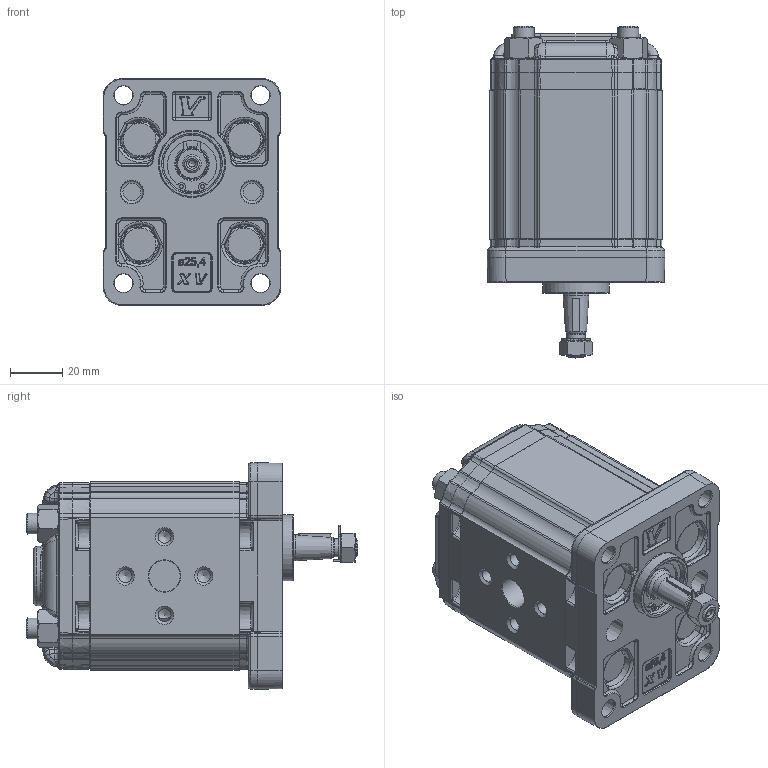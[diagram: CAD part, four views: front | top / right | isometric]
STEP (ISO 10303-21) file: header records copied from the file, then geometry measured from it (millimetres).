
FILE_DESCRIPTION(/* description */ ('Unknown'),/* implementation_level */ '2;1');
FILE_NAME(/* name */ 'X1M2901FIIF',/* time_stamp */ '2026-05-26T19:09:14+02:00',/* author */ ('Unknown'),/* organization */ ('Unknown'),/* preprocessor_version */ 'ST-DEVELOPER v16.7',/* originating_system */ 'Solid Edge',/* authorisation */ 'Unknown');
FILE_SCHEMA (('AUTOMOTIVE_DESIGN {1 0 10303 214 3 1 1}'));
Products named in the file (5): X1M2901FIIF; X1M01; 1F; X1IIH57; XM101-F
Assembly tree (4 placements, depth 2):
  X1M2901FIIF
    X1M01
    1F
    X1IIH57
    XM101-F
Bounding box: 68 x 126.99 x 86.7 mm (x, y, z)
Volume: 379535.4 mm3; surface area: 76497.1 mm2
Topology: 6 solids, 7 shells, 2720 faces, 6455 edges, 3822 vertices
Faces by surface type: cylinder 849, bspline 644, plane 590, torus 311, cone 273, sphere 53
Full cylindrical faces by diameter (mm): 1.447 x2, 2.5 x1, 3.65 x2, 5 x8, 7 x2, 7.15 x4, 7.25 x1, 8 x12, 8.5 x6, 9 x2, 9.92 x1, 10.5 x2, 11.965 x1, 12 x6, 12.4 x1, 15.115 x1, 17.147 x1, 19 x1, 20 x1, 21.8 x1, 22 x2, 22.2 x1, 23 x1, 25.4 x1
Entity records: 132759 total; most frequent: CARTESIAN_POINT 55369, ORIENTED_EDGE 12244, DIRECTION 11813, EDGE_CURVE 6122, AXIS2_PLACEMENT_3D 4924, VERTEX_POINT 3717, FACE_BOUND 3059, EDGE_LOOP 3049
